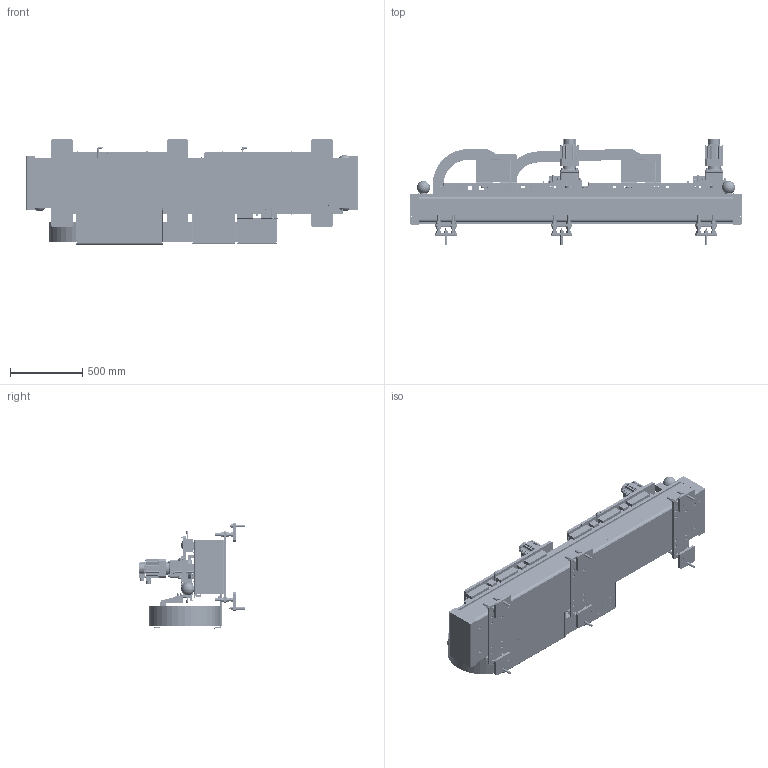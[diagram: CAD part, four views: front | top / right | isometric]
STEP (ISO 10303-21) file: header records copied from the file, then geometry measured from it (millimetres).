
FILE_DESCRIPTION (( 'STEP AP214' ), '1' );
FILE_NAME ('306545-100-1(TM2010_1000TR).STEP', '2024-05-13T08:04:59', ( '' ), ( '' ), 'SwSTEP 2.0', 'SolidWorks 2021', '' );
FILE_SCHEMA (( 'AUTOMOTIVE_DESIGN' ));
Length unit declared in the file: millimetre
Products named in the file (93): Cap Screw_M8X50_M8-50; hexa bolt M8-50; 306535-114-0(原点調整治具); EYE_BOLT(M24); 306535-113-0(原点ブロック Assy); SHS45LV(グリスニップル・集中給油)_継手(LF-C)L側 N(1-8)-75L L(1-8); TKC0640-IU_W110; PD4; TKC0640-KA_W110; LF-C(THK); 306535-111-0(アジャスタプレート); 306545-106-0(ギヤプレート); 306545-100-0_集中給油マニホールド Assy; TL-Q5MC(配線有・横); NUT(M20)_type1; VRXF-9E-K-28HA22; M5-5(SET(ギザ先)); Cap Screw(SW_W)_M6X15_M6-15; 305795-115-0(ラックスペーサ(B)); Cap Screw(SW_W)_M10X40_M10-40; 306545-100-1(TM2010_1000TR); 306535-120-0(制音シート)_600L; 303156-106-0(位置決めﾋﾟﾝ); 306535-117-0(固定端ブラケット); 302935-102-0(近接ブラケット); SHS45LV(グリスニップル・集中給油)_継手(LF-C)R側; C12(LM用ｷｬｯﾌﾟ); 306055-103-0(LMガイドストッパ)_Ｌ型（4点止め）; Cap Screw(W)_M6X60_M6-40; NutM20(W)ASSY; Cap Screw(SW,W)_M8X25_M8-25; Cap Screw_M8X15_M8-15; Cap Screw_M10X20_M10-20; ｴﾙﾎﾞｱﾀﾞﾌﾟﾀ(106029)_デフォルト; Cap Screw_M5X10_M5-12; SHS45LV_集中給油ベース; NUT(M8)_type2; 306535-117-0(固定端ブラケット Assy); TKC64H50W110R200-25L(306545-100-0); 306545-103-0(移動端ブラケット)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
Assembly tree (308 placements, depth 4):
  306545-100-1(TM2010_1000TR)
    306545-111-0(走行フレーム(1000TR))
    306545-100-0-1_可動部 Assy_奥側  x2
      306545-102-1(スライドベース)
      303156-106-0(位置決めﾋﾟﾝ)
      306545-100-0_モータ Assy
        303825-109-1(モータブラケット)
        VRXF-9E-K-28HA22
        MDMF202L1C6
        306545-105-0(ピニオンギア)
        306545-106-0(ギヤプレート)
        Cap Screw_M8X25_M8-25  x4
        Cap Screw_M10X25_M10-25  x4
        M5-5(SET(ギザ先))  x2
        Cap Screw_M10X20_M10-20
      306055-103-0(LMガイドストッパ)_Ｌ型（4点止め）
      302935-102-0(近接ブラケット)
      SHS45LV(グリスニップル・集中給油)_継手(LF-C)R側
        SHS45LV_集中給油ベース
        LF-C(THK)
        PD4
        ｺﾝﾌﾟﾚｯｼｮンﾌﾞｯｼﾝｸﾞ(106253)
        ｺﾝﾌﾟﾚｯｼｮンｽﾘｰﾌﾞ(106254)
        僫僀儘儞僠儏僂僽(冇4x冇2.5)
      SHS45LV(グリスニップル・集中給油)_継手(LF-C)L側 N(1-8)-75L L(1-8)逆
        SHS45LV_集中給油ベース
        LF-C(THK)
        PD4
        ｺﾝﾌﾟﾚｯｼｮンﾌﾞｯｼﾝｸﾞ(106253)
        ｺﾝﾌﾟﾚｯｼｮンｽﾘｰﾌﾞ(106254)
        僫僀儘儞僠儏僂僽(冇4x冇2.5)
        LongN-(1-8)-75L
        L-(1-8)
      SHS45LV(グリスニップル・集中給油)_継手(LF-C)L側
        SHS45LV_集中給油ベース
        LF-C(THK)
        PD4
        ｺﾝﾌﾟﾚｯｼｮンﾌﾞｯｼﾝｸﾞ(106253)
        ｺﾝﾌﾟﾚｯｼｮンｽﾘｰﾌﾞ(106254)
        僫僀儘儞僠儏僂僽(冇4x冇2.5)
      SHS45LV(グリスニップル・集中給油)_継手(LF-C)L側 N(1-8)-75L L(1-8)
        SHS45LV_集中給油ベース
        LF-C(THK)
        PD4
        ｺﾝﾌﾟﾚｯｼｮンﾌﾞｯｼﾝｸﾞ(106253)
        ｺﾝﾌﾟﾚｯｼｮンｽﾘｰﾌﾞ(106254)
        僫僀儘儞僠儏僂僽(冇4x冇2.5)
        LongN-(1-8)-75L
        L-(1-8)
      NUT(M8)_type2
      TL-Q5MC(配線有・横)
      ｽﾄﾚｰﾄｱﾀﾞﾌﾟﾀ(106001)_L=18
      ｴﾙﾎﾞｱﾀﾞﾌﾟﾀ(106029)_デフォルト
      ｺﾝﾌﾟﾚｯｼｮンﾌﾞｯｼﾝｸﾞ(106253)
      hexa bolt M8-50
      Cap Screw(SW_W)_M10X40_M10-40
      Cap Screw_M6X10_M6-10
      Cap Screw_M10X20_M10-20
      AB-4N(ナイロンクリップ)
      LKC（クレードル）
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Bounding box: 2296 x 731 x 732.5 mm (x, y, z)
Volume: 99419884.7 mm3; surface area: 19885737.6 mm2
Topology: 519 solids, 547 shells, 14340 faces, 34227 edges, 20926 vertices
Faces by surface type: plane 6536, cylinder 4964, cone 1754, bspline 984, torus 86, sphere 16
Full cylindrical faces by diameter (mm): 102 x2
Entity records: 162875 total; most frequent: CARTESIAN_POINT 32525, DIRECTION 24342, ORIENTED_EDGE 22174, EDGE_CURVE 11100, AXIS2_PLACEMENT_3D 9283, VERTEX_POINT 7146, LINE 5776, VECTOR 5776
